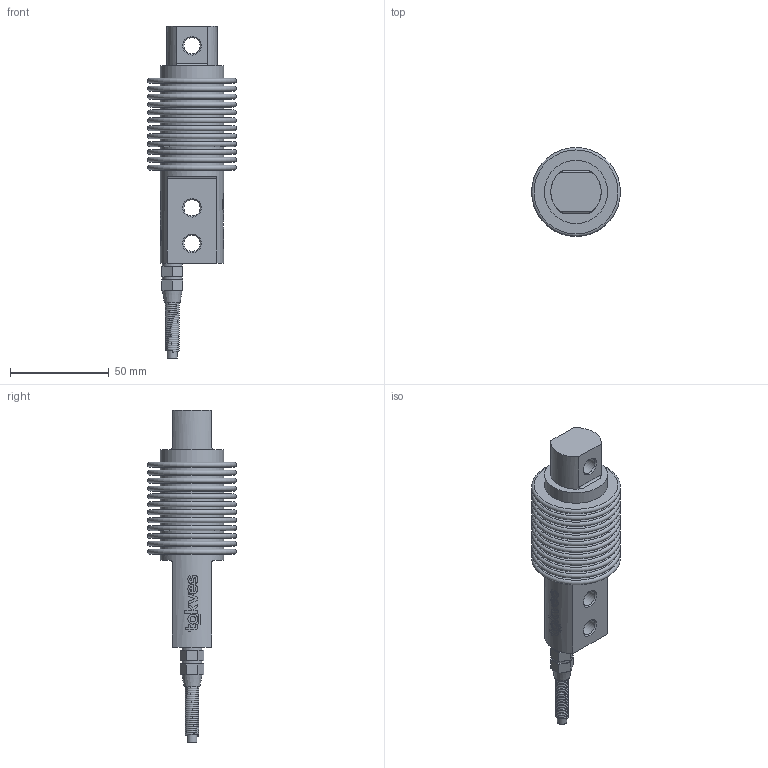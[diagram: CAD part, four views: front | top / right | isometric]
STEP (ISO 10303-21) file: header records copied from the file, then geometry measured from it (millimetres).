
FILE_DESCRIPTION(('STEP AP242'), '1');
FILE_NAME('BBA-1', '', ('UNSPECIFIED'), ('UNSPECIFIED'), 'C3D Converter', 'C3D Toolkit', '');
FILE_SCHEMA(('AP242_MANAGED_MODEL_BASED_3D_ENGINEERING_MIM_LF { 1 0 10303 442 1 1 4 }'));
Length unit declared in the file: millimetre
Bounding box: 45 x 45 x 168 mm (x, y, z)
Volume: 101710.4 mm3; surface area: 35756.5 mm2
Topology: 2 solids, 2 shells, 346 faces, 857 edges, 559 vertices
Faces by surface type: cylinder 151, plane 136, bspline 32, torus 12, extrusion 8, cone 7
Full cylindrical faces by diameter (mm): 2.844 x2, 5 x1, 5.035 x2, 7 x1, 8.2 x3, 9.992 x2, 32 x13
Entity records: 29066 total; most frequent: CARTESIAN_POINT 21775, ORIENTED_EDGE 1546, DIRECTION 1248, EDGE_CURVE 773, VERTEX_POINT 557, EDGE_LOOP 476, AXIS2_PLACEMENT_3D 462, ADVANCED_FACE 345
